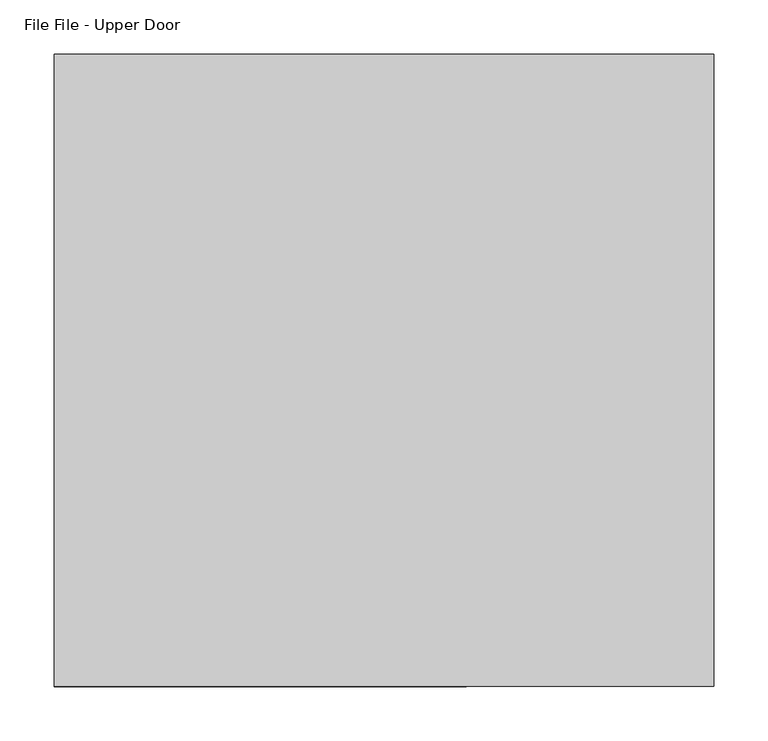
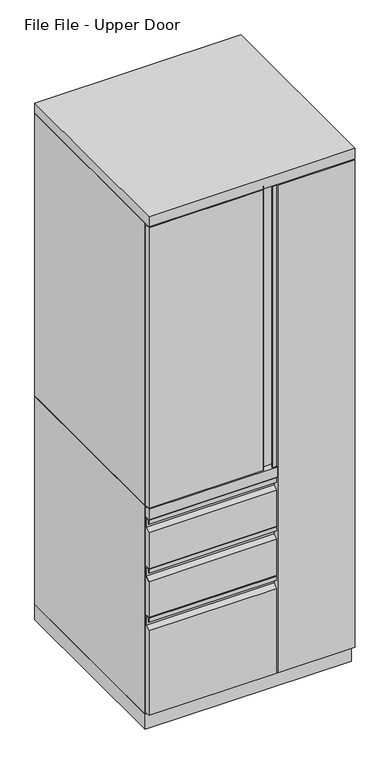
"""IFC4 building model written with IfcOpenShell, lengths in millimetres: furniture geometry, Haworth_VSeries_StorageTower_5High : File File - Upper Door."""

from ifc_helpers import new_model, si_unit, frame, origin, origin_with_axes, place, context, project, spatial, polyline, outline, extrude, source, transform, mapped, element, save


def file_file_upper_door_719a74f5(model_context):
    return source(origin(), model_context, "Body", "SweptSolid", [
        extrude(outline(polyline([(73.025, -584.2), (60.2767456, -584.2), (60.2767456, -582.6124879), (71.3892214, -582.6124879), (71.3892214, -569.9125), (42.7352655, -569.9125), (33.9974994, -584.2), (-304.8, -584.2), (-304.8, -565.15), (73.025, -565.15), (73.025, -584.2)])), frame((0.0, 0.0, 701.675), z_axis=(0.0, 0.0, 1.0), x_axis=(1.0, 0.0, 0.0)), (0.0, 0.0, 1.0), 876.3),
        extrude(outline(polyline([(-584.2, 664.6164002), (-565.15, 664.6164002), (-565.15, 513.8039002), (-584.2, 513.8039002), (-584.2, 625.5888996), (-569.9125, 634.3266657), (-569.9125, 662.9806216), (-582.6124879, 662.9806216), (-582.6124879, 651.8681458), (-584.2, 651.8681458), (-584.2, 664.6164002)])), frame((-304.8, 0.0, 0.0), z_axis=(1.0, 0.0, 0.0), x_axis=(0.0, 1.0, 0.0)), (0.0, 0.0, 1.0), 377.825),
        extrude(outline(polyline([(-584.2, 512.2164002), (-565.15, 512.2164002), (-565.15, 361.4039002), (-584.2, 361.4039002), (-584.2, 473.1888996), (-569.9125, 481.9266657), (-569.9125, 510.5806216), (-582.6124879, 510.5806216), (-582.6124879, 499.4681458), (-584.2, 499.4681458), (-584.2, 512.2164002)])), frame((-304.8, 0.0, 0.0), z_axis=(1.0, 0.0, 0.0), x_axis=(0.0, 1.0, 0.0)), (0.0, 0.0, 1.0), 377.825),
        extrude(outline(polyline([(-584.2, 358.2289002), (-565.15, 358.2289002), (-565.15, 55.0164002), (-584.2, 55.0164002), (-584.2, 319.2013996), (-569.9125, 327.9391657), (-569.9125, 356.5931216), (-582.6124879, 356.5931216), (-582.6124879, 345.4806458), (-584.2, 345.4806458), (-584.2, 358.2289002)])), frame((-304.8, 0.0, 0.0), z_axis=(1.0, 0.0, 0.0), x_axis=(0.0, 1.0, 0.0)), (0.0, 0.0, 1.0), 377.825),
        extrude(outline(polyline([(57.15, -19.05), (57.15, -565.15), (-285.75, -565.15), (-285.75, -19.05), (57.15, -19.05)])), frame((0.0, 0.0, 681.8970983), z_axis=(0.0, 0.0, 1.0), x_axis=(1.0, 0.0, 0.0)), (0.0, 0.0, 1.0), 19.7779017),
        extrude(outline(polyline([(-304.8, 0.0), (-285.75, 0.0), (-285.75, -565.15), (-304.8, -565.15), (-304.8, 0.0)])), frame((0.0, 0.0, 47.625), z_axis=(0.0, 0.0, 1.0), x_axis=(1.0, 0.0, 0.0)), (0.0, 0.0, 1.0), 650.875),
        extrude(outline(polyline([(76.2, -584.2), (-304.8, -584.2), (-304.8, -565.15), (76.2, -565.15), (76.2, -584.2)])), frame((0.0, 0.0, 666.75), z_axis=(0.0, 0.0, 1.0), x_axis=(1.0, 0.0, 0.0)), (0.0, 0.0, 1.0), 31.75),
        extrude(outline(polyline([(285.75, -19.05), (-285.75, -19.05), (-285.75, 0.0), (285.75, 0.0), (285.75, -19.05)])), frame((0.0, 0.0, 47.625), z_axis=(0.0, 0.0, 1.0), x_axis=(1.0, 0.0, 0.0)), (0.0, 0.0, 1.0), 1533.525),
        extrude(outline(polyline([(-304.8, 0.0), (-285.75, 0.0), (-285.75, -565.15), (-304.8, -565.15), (-304.8, 0.0)])), frame((0.0, 0.0, 698.5), z_axis=(0.0, 0.0, 1.0), x_axis=(1.0, 0.0, 0.0)), (0.0, 0.0, 1.0), 882.65),
        extrude(outline(polyline([(304.8, -565.15), (304.8, -584.2), (76.2, -584.2), (76.2, -565.15), (304.8, -565.15)])), frame((0.0, 0.0, 55.0164002), z_axis=(0.0, 0.0, 1.0), x_axis=(1.0, 0.0, 0.0)), (0.0, 0.0, 1.0), 1523.0078125),
        extrude(outline(polyline([(76.2, -19.05), (76.2, -565.15), (57.15, -565.15), (57.15, -19.05), (76.2, -19.05)])), frame((0.0, 0.0, 47.625), z_axis=(0.0, 0.0, 1.0), x_axis=(1.0, 0.0, 0.0)), (0.0, 0.0, 1.0), 1533.525),
        extrude(outline(polyline([(304.8, 0.0), (304.8, -565.15), (285.75, -565.15), (285.75, 0.0), (304.8, 0.0)])), frame((0.0, 0.0, 47.625), z_axis=(0.0, 0.0, 1.0), x_axis=(1.0, 0.0, 0.0)), (0.0, 0.0, 1.0), 1533.525),
        extrude(outline(polyline([(304.8, 0.0), (304.8, -584.2), (-304.8, -584.2), (-304.8, 0.0), (304.8, 0.0)])), frame((0.0, 0.0, 1581.15), z_axis=(0.0, 0.0, 1.0), x_axis=(1.0, 0.0, 0.0)), (0.0, 0.0, 1.0), 31.75),
        extrude(outline(polyline([(304.8, 0.0), (304.8, -565.15), (-304.8, -565.15), (-304.8, 0.0), (304.8, 0.0)])), origin_with_axes(), (0.0, 0.0, 1.0), 47.625),
    ])


if __name__ == "__main__":
    model = new_model("IFC4")
    model_context = context("Model", 3, world=origin())
    ifc_project = project(units=[si_unit("LENGTHUNIT", "METRE", prefix="MILLI")], contexts=[model_context])
    site = spatial("IfcSite", under=ifc_project)
    building = spatial("IfcBuilding", under=site)
    placement = place(None, origin())
    file_file_upper_door_shape = file_file_upper_door_719a74f5(model_context)
    element("IfcFurniture", 1, ObjectType="Haworth_VSeries_StorageTower_5High : File File - Upper Door", at=placement, inside=building, context=model_context, shape_type="MappedRepresentation", body=[
        mapped(file_file_upper_door_shape, transform((0.0, 0.0, 0.0), x_axis=(1.0, 0.0, 0.0), y_axis=(0.0, 1.0, 0.0), z_axis=(0.0, 0.0, 1.0))),
    ])
    save(model, "model.ifc")
